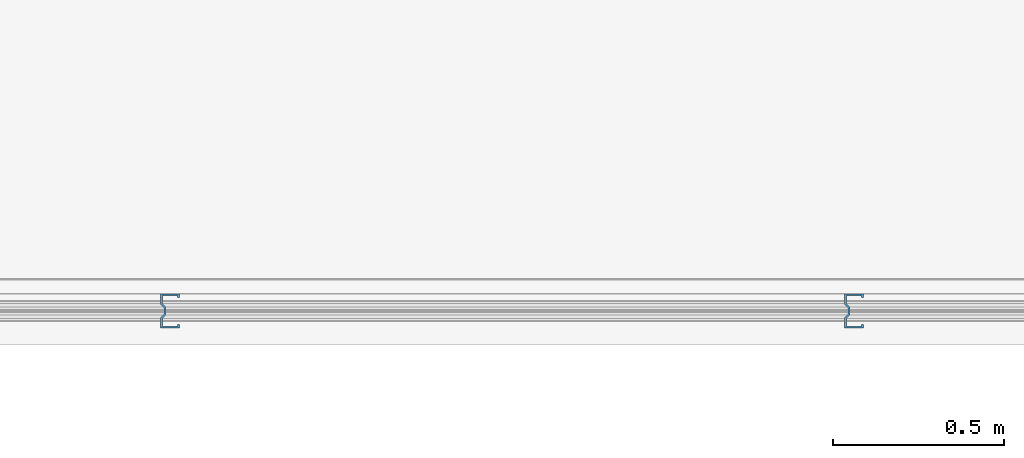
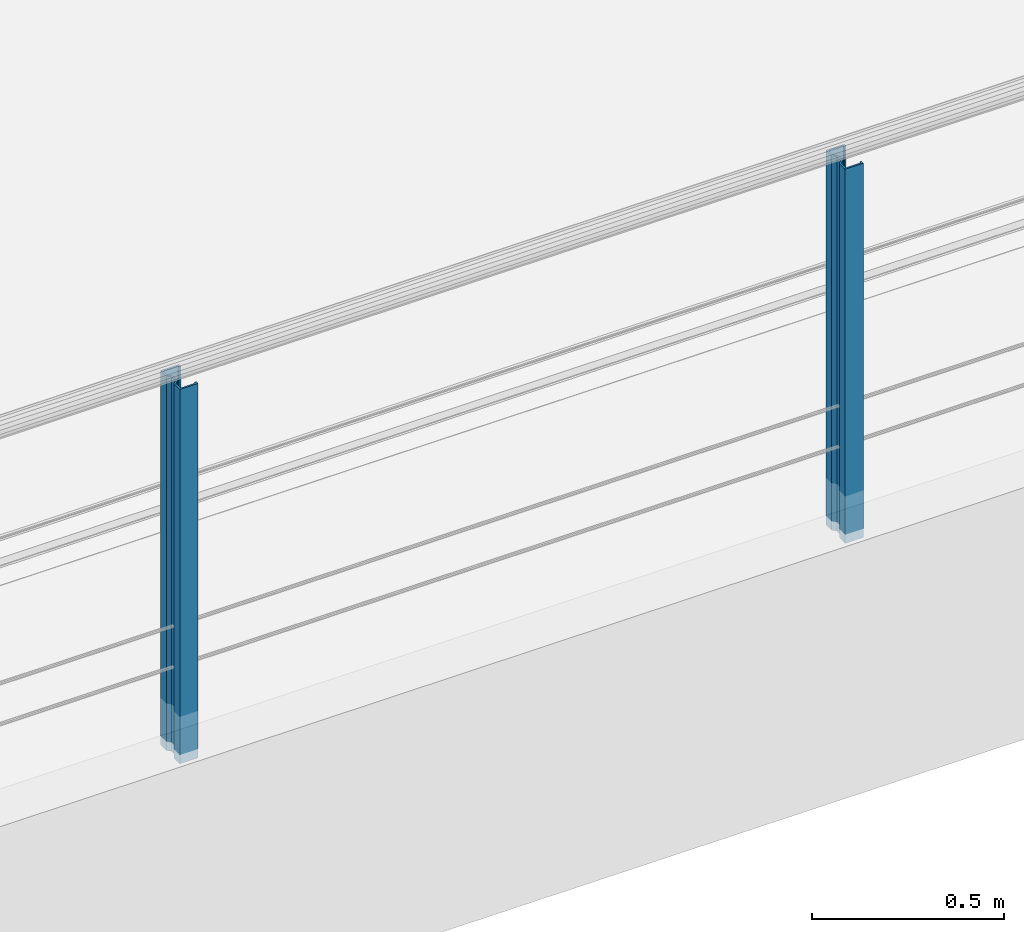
# One storey, part 13 of 31: 2 beams.
"""IFC2X3 building model written with IfcOpenShell, lengths in millimetres."""

from ifc_helpers import new_model, si_unit, frame, origin_with_axes, place, context, subcontext, project, spatial, faceted_brep, material, type_object, element, save


model = new_model("IFC2X3")

# Units and contexts
model_context = context("Model", 3, precision=1e-05, world=origin_with_axes())
body_context = subcontext(model_context, "Body", "Model", "MODEL_VIEW")
ifc_project = project(units=[si_unit("LENGTHUNIT", "METRE", prefix="MILLI"), si_unit("AREAUNIT", "SQUARE_METRE"), si_unit("VOLUMEUNIT", "CUBIC_METRE"), si_unit("MASSUNIT", "GRAM", prefix="KILO"), si_unit("TIMEUNIT", "SECOND"), si_unit("PLANEANGLEUNIT", "RADIAN"), si_unit("SOLIDANGLEUNIT", "STERADIAN"), si_unit("THERMODYNAMICTEMPERATUREUNIT", "DEGREE_CELSIUS"), si_unit("LUMINOUSINTENSITYUNIT", "LUMEN")], contexts=[model_context])

# Site, building, storey
site_placement = place(None, origin_with_axes())
site = spatial("IfcSite", under=ifc_project, at=site_placement, Name="Undefined", CompositionType="ELEMENT")
building_placement = place(site_placement, origin_with_axes())
building = spatial("IfcBuilding", under=site, at=building_placement, Name="Undefined", CompositionType="ELEMENT")
storey_placement = place(building_placement, origin_with_axes())
storey = spatial("IfcBuildingStorey", under=building, at=storey_placement, Name="Undefined", CompositionType="ELEMENT", Elevation=0.0)

# Beams
ifc_material = material(Name="STEEL/S355J2+N")
beam_type = type_object("IfcBeamType", Name="CW100-5-10*55-10-30", PredefinedType="NOTDEFINED")
for number, where, z_axis, x_axis, name in (
    (1, (25577.5, -600.0, 1040.0), (0.0, 1.0, 0.0), (0.0, 0.0, -1.0), "BB-STOLPE"),
    (2, (27577.5, -600.0, 1040.0), (0.0, 1.0, 0.0), (0.0, 0.0, -1.0), "BB-STOLPE"),
):
    element("IfcBeam", number, at=place(storey_placement, frame(where, z_axis=z_axis, x_axis=x_axis)), inside=storey, type_object=beam_type, material=ifc_material, Name=name, context=body_context, shape_type="Brep", body=[
        faceted_brep([(0.0, -27.5, -50.0), (0.0, 27.5, -50.0), (1190.0, 27.5, -50.0), (1190.0, -27.5, -50.0), (0.0, 27.5, -20.0), (1190.0, 27.5, -20.0), (0.0, 17.5, -10.0), (1190.0, 17.5, -10.0), (0.0, 17.5, 10.0), (1190.0, 17.5, 10.0), (0.0, 27.5, 20.0), (1190.0, 27.5, 20.0), (0.0, 27.5, 50.0), (1190.0, 27.5, 50.0), (0.0, -27.5, 50.0), (1190.0, -27.5, 50.0), (0.0, -27.5, 40.0), (1190.0, -27.5, 40.0), (0.0, -22.5, 40.0), (1190.0, -22.5, 40.0), (0.0, -22.5, 45.0), (1190.0, -22.5, 45.0), (0.0, 22.5, 45.0), (1190.0, 22.5, 45.0), (0.0, 22.5, 21.9149999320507), (1190.0, 22.5, 21.9149999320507), (0.0, 12.5, 11.9149999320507), (1190.0, 12.5, 11.9149999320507), (0.0, 12.5, -11.9149999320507), (1190.0, 12.5, -11.9149999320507), (0.0, 22.5, -21.9149999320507), (1190.0, 22.5, -21.9149999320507), (0.0, 22.5, -45.0), (1190.0, 22.5, -45.0), (0.0, -22.5, -45.0), (1190.0, -22.5, -45.0), (0.0, -22.5, -40.0), (1190.0, -22.5, -40.0), (0.0, -27.5, -40.0), (1190.0, -27.5, -40.0)], [[[0, 1, 2, 3]], [[1, 4, 5, 2]], [[4, 6, 7, 5]], [[6, 8, 9, 7]], [[8, 10, 11, 9]], [[10, 12, 13, 11]], [[12, 14, 15, 13]], [[14, 16, 17, 15]], [[16, 18, 19, 17]], [[18, 20, 21, 19]], [[20, 22, 23, 21]], [[22, 24, 25, 23]], [[24, 26, 27, 25]], [[26, 28, 29, 27]], [[28, 30, 31, 29]], [[30, 32, 33, 31]], [[32, 34, 35, 33]], [[34, 36, 37, 35]], [[36, 38, 39, 37]], [[38, 0, 3, 39]], [[5, 7, 9, 11, 13, 15, 17, 19, 21, 23, 25, 27, 29, 31, 33, 35, 37, 39, 3, 2]], [[38, 36, 34, 32, 30, 28, 26, 24, 22, 20, 18, 16, 14, 12, 10, 8, 6, 4, 1, 0]]]),
    ])

save(model, "model.ifc")
